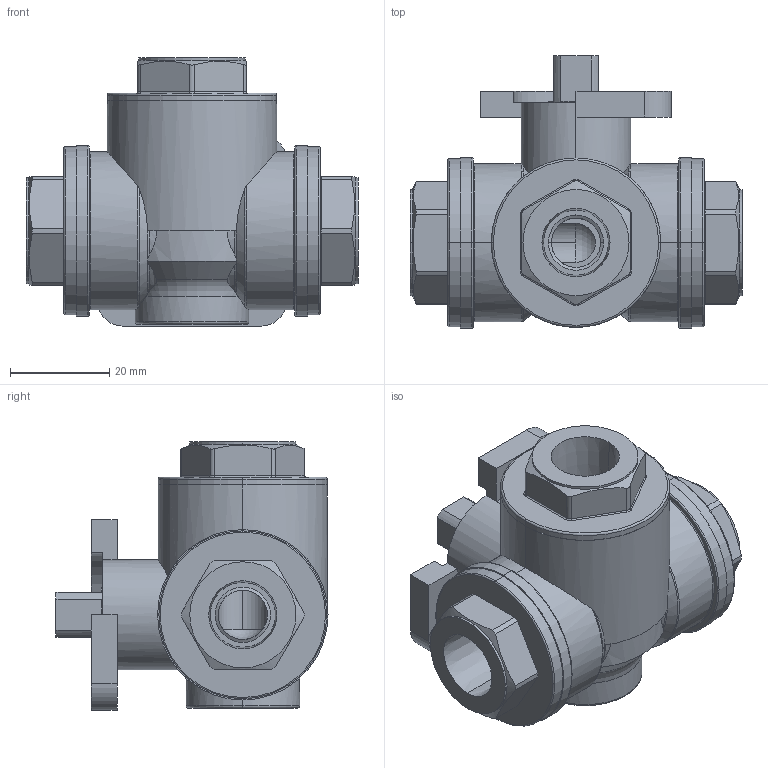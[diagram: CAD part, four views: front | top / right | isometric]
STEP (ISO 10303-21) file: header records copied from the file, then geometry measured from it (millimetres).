
FILE_DESCRIPTION (( 'STEP AP203' ), '1' );
FILE_NAME ('b2s-2tl.STEP', '2021-06-29T17:18:22', ( 'Owner' ), ( '' ), 'SwSTEP 2.0', 'SolidWorks 2017', '' );
FILE_SCHEMA (( 'CONFIG_CONTROL_DESIGN' ));
Length unit declared in the file: inch
Products named in the file (2): b2s-2tl
Bounding box: 66.8 x 54.74 x 53.98 mm (x, y, z)
Volume: 62691.9 mm3; surface area: 20037.7 mm2
Topology: 1 solids, 5 shells, 258 faces, 635 edges, 401 vertices
Faces by surface type: cylinder 109, plane 63, torus 52, cone 29, sphere 5
Entity records: 8543 total; most frequent: CARTESIAN_POINT 2362, DIRECTION 1282, ORIENTED_EDGE 1258, EDGE_CURVE 629, AXIS2_PLACEMENT_3D 543, VERTEX_POINT 399, EDGE_LOOP 284, CIRCLE 283
